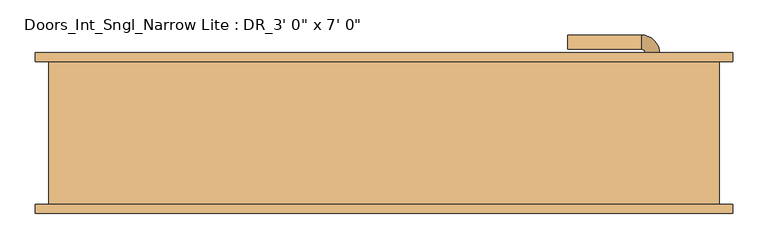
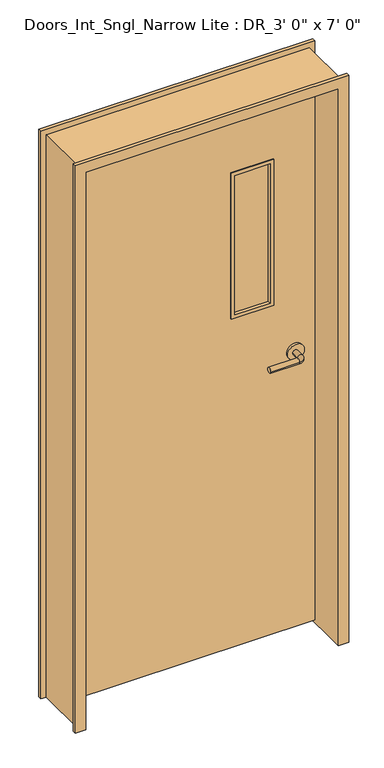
"""IFC4 building model written with IfcOpenShell, lengths in millimetres: door geometry."""

from ifc_helpers import new_model, si_unit, point, frame, frame_2d, origin, place, context, project, spatial, polyline, circle_curve, ellipse_curve, trimmed, segment, composite_curve, outline, extrude, faceted_brep, source, transform, mapped, element, save
from ifc_brep_helpers import plane_surface, cylinder_surface, revolved_surface, advanced_brep


def door_16a32bfa(model_context):
    return source(origin(), model_context, "Body", "SolidModel", [
        advanced_brep(
        [(391.0, 84.2, 1066.8), (371.0, 84.2, 1066.8), (371.0, 114.2, 1066.8), (391.0, 114.2, 1066.8), (366.0, 119.2, 1066.8), (366.0, 139.2, 1066.8), (261.0, 139.2, 1066.8), (261.0, 119.2, 1066.8)],
        [
            (0, 1, circle_curve(frame((381.0, 84.2, 1066.8), z_axis=(0.0, -1.0, 0.0), x_axis=(-0.9999999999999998, 0.0, 0.0)), 10.0)),
            (1, 0, circle_curve(frame((381.0, 84.2, 1066.8), z_axis=(0.0, -1.0, 0.0), x_axis=(-0.9999999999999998, 0.0, 0.0)), 10.0)),
            (1, 2),
            (2, 3, circle_curve(frame((381.0, 114.2, 1066.8), z_axis=(0.0, -1.0, 0.0), x_axis=(-0.9999999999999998, 0.0, 0.0)), 10.0)),
            (3, 0),
            (3, 2, circle_curve(frame((381.0, 114.2, 1066.8), z_axis=(0.0, -1.0, 0.0), x_axis=(-0.9999999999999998, 0.0, 0.0)), 10.0)),
            (4, 5, circle_curve(frame((366.0, 129.2, 1066.8), z_axis=(0.9999999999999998, 0.0, 0.0), x_axis=(0.0, -0.9999999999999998, 0.0)), 10.0)),
            (5, 3, circle_curve(frame((366.0, 114.2, 1066.8), z_axis=(0.0, 0.0, -1.0), x_axis=(0.9999999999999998, 0.0, 0.0)), 25.0)),
            (2, 4, circle_curve(frame((366.0, 114.2, 1066.8), z_axis=(0.0, 0.0, 1.0), x_axis=(0.9999999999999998, 0.0, 0.0)), 5.0)),
            (5, 4, circle_curve(frame((366.0, 129.2, 1066.8), z_axis=(0.9999999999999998, 0.0, 0.0), x_axis=(0.0, -0.9999999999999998, 0.0)), 10.0)),
            (6, 7, circle_curve(frame((261.0, 129.2, 1066.8), z_axis=(-1.0, 0.0, 0.0), x_axis=(0.0, -0.9999999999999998, 0.0)), 10.0)),
            (7, 6, circle_curve(frame((261.0, 129.2, 1066.8), z_axis=(-1.0, 0.0, 0.0), x_axis=(0.0, -0.9999999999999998, 0.0)), 10.0)),
            (4, 7),
            (6, 5),
        ],
        [
            plane_surface(frame((381.0, 84.2, 1066.8), z_axis=(0.0, -1.0, 0.0), x_axis=(0.0, 0.0, 1.0))),
            cylinder_surface(frame((381.0, 84.2, 1066.8), z_axis=(0.0, -0.9999999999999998, 0.0), x_axis=(-0.9999999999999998, 0.0, 0.0)), 10.0),
            revolved_surface(trimmed(ellipse_curve(frame((381.0, 114.2, 1066.8), z_axis=(0.0, 0.9999999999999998, 0.0), x_axis=(-0.9999999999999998, 0.0, 0.0)), 10.0, 10.0), [point((391.0, 114.2, 1066.8))], [point((371.0, 114.2, 1066.8))], True, "CARTESIAN"), (366.0, 114.2, 1066.8), (0.0, 0.0, -1.0)),
            revolved_surface(trimmed(ellipse_curve(frame((381.0, 114.2, 1066.8), z_axis=(0.0, 0.9999999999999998, 0.0), x_axis=(-0.9999999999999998, 0.0, 0.0)), 10.0, 10.0), [point((371.0, 114.2, 1066.8))], [point((391.0, 114.2, 1066.8))], True, "CARTESIAN"), (366.0, 114.2, 1066.8), (0.0, 0.0, -1.0)),
            plane_surface(frame((261.0, 129.2, 1066.8), z_axis=(-1.0, 0.0, 0.0), x_axis=(0.0, 0.0, 1.0))),
            cylinder_surface(frame((366.0, 129.2, 1066.8), z_axis=(0.9999999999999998, 0.0, 0.0), x_axis=(0.0, -0.9999999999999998, 0.0)), 10.0),
        ],
        [
            (0, [[1, 2]]),
            (1, [[3, 4, 5, -2]]),
            (1, [[-5, 6, -3, -1]]),
            (2, [[7, 8, -4, 9]]),
            (3, [[10, -9, -6, -8]]),
            (4, [[11, 12]]),
            (5, [[13, -11, 14, -7]]),
            (5, [[-14, -12, -13, -10]]),
        ],
    ),
        extrude(outline(composite_curve([segment(trimmed(circle_curve(frame_2d((1066.8, 383.5)), 30.0), [point((1066.8, 413.5))], [point((1066.8, 353.5))], False, "CARTESIAN"), True, "CONTINUOUS"), segment(trimmed(circle_curve(frame_2d((1066.8, 383.5)), 30.0), [point((1066.8, 353.5))], [point((1066.8, 413.5))], False, "CARTESIAN"), True, "CONTINUOUS")], self_intersect=False)), frame((0.0, 76.2, 0.0), z_axis=(0.0, 1.0, 0.0), x_axis=(0.0, 0.0, 1.0)), (0.0, 0.0, 1.0), 8.0),
        advanced_brep(
        [(391.0, 23.75, 1066.8), (371.0, 23.75, 1066.8), (391.0, -6.25, 1066.8), (371.0, -6.25, 1066.8), (366.0, -11.25, 1066.8), (366.0, -31.25, 1066.8), (261.0, -31.25, 1066.8), (261.0, -11.25, 1066.8)],
        [
            (0, 1, circle_curve(frame((381.0, 23.75, 1066.8), z_axis=(0.0, 1.0, 0.0), x_axis=(-0.9999999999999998, 0.0, 0.0)), 10.0)),
            (1, 0, circle_curve(frame((381.0, 23.75, 1066.8), z_axis=(0.0, 1.0, 0.0), x_axis=(-0.9999999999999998, 0.0, 0.0)), 10.0)),
            (0, 2),
            (2, 3, circle_curve(frame((381.0, -6.25, 1066.8), z_axis=(0.0, 1.0, 0.0), x_axis=(-0.9999999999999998, 0.0, 0.0)), 10.0)),
            (3, 1),
            (3, 2, circle_curve(frame((381.0, -6.25, 1066.8), z_axis=(0.0, 1.0, 0.0), x_axis=(-0.9999999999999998, 0.0, 0.0)), 10.0)),
            (4, 3, circle_curve(frame((366.0, -6.25, 1066.8), z_axis=(0.0, 0.0, 1.0), x_axis=(0.9999999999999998, 0.0, 0.0)), 5.0)),
            (2, 5, circle_curve(frame((366.0, -6.25, 1066.8), z_axis=(0.0, 0.0, -1.0), x_axis=(0.9999999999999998, 0.0, 0.0)), 25.0)),
            (5, 4, circle_curve(frame((366.0, -21.25, 1066.8), z_axis=(0.9999999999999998, 0.0, 0.0), x_axis=(0.0, 0.9999999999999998, 0.0)), 10.0)),
            (4, 5, circle_curve(frame((366.0, -21.25, 1066.8), z_axis=(0.9999999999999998, 0.0, 0.0), x_axis=(0.0, 0.9999999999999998, 0.0)), 10.0)),
            (6, 7, circle_curve(frame((261.0, -21.25, 1066.8), z_axis=(-1.0, 0.0, 0.0), x_axis=(0.0, 0.9999999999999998, 0.0)), 10.0)),
            (7, 6, circle_curve(frame((261.0, -21.25, 1066.8), z_axis=(-1.0, 0.0, 0.0), x_axis=(0.0, 0.9999999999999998, 0.0)), 10.0)),
            (5, 6),
            (7, 4),
        ],
        [
            plane_surface(frame((381.0, 23.75, 1066.8), z_axis=(0.0, 1.0, 0.0), x_axis=(0.0, 0.0, 1.0))),
            cylinder_surface(frame((381.0, 23.75, 1066.8), z_axis=(0.0, 0.9999999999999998, 0.0), x_axis=(-0.9999999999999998, 0.0, 0.0)), 10.0),
            revolved_surface(trimmed(ellipse_curve(frame((381.0, -6.25, 1066.8), z_axis=(0.0, 0.9999999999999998, 0.0), x_axis=(-0.9999999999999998, 0.0, 0.0)), 10.0, 10.0), [point((391.0, -6.25, 1066.8))], [point((371.0, -6.25, 1066.8))], True, "CARTESIAN"), (366.0, -6.25, 1066.8), (0.0, 0.0, -1.0)),
            revolved_surface(trimmed(ellipse_curve(frame((381.0, -6.25, 1066.8), z_axis=(0.0, 0.9999999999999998, 0.0), x_axis=(-0.9999999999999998, 0.0, 0.0)), 10.0, 10.0), [point((371.0, -6.25, 1066.8))], [point((391.0, -6.25, 1066.8))], True, "CARTESIAN"), (366.0, -6.25, 1066.8), (0.0, 0.0, -1.0)),
            plane_surface(frame((261.0, -21.25, 1066.8), z_axis=(-1.0, 0.0, 0.0), x_axis=(0.0, 0.0, 1.0))),
            cylinder_surface(frame((366.0, -21.25, 1066.8), z_axis=(0.9999999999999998, 0.0, 0.0), x_axis=(0.0, 0.9999999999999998, 0.0)), 10.0),
        ],
        [
            (0, [[1, 2]]),
            (1, [[-1, 3, 4, 5]]),
            (1, [[-2, -5, 6, -3]]),
            (2, [[7, -4, 8, 9]]),
            (3, [[-8, -6, -7, 10]]),
            (4, [[11, 12]]),
            (5, [[-9, 13, -12, 14]]),
            (5, [[-10, -14, -11, -13]]),
        ],
    ),
        extrude(outline(composite_curve([segment(trimmed(circle_curve(frame_2d((1066.8, 383.5)), 30.0), [point((1066.8, 413.5))], [point((1066.8, 353.5))], False, "CARTESIAN"), True, "CONTINUOUS"), segment(trimmed(circle_curve(frame_2d((1066.8, 383.5)), 30.0), [point((1066.8, 353.5))], [point((1066.8, 413.5))], False, "CARTESIAN"), True, "CONTINUOUS")], self_intersect=False)), frame((0.0, 23.75, 0.0), z_axis=(0.0, 1.0, 0.0), x_axis=(0.0, 0.0, 1.0)), (0.0, 0.0, 1.0), 8.0),
        extrude(outline(polyline([(292.1, 41.275), (165.1, 41.275), (165.1, 66.675), (292.1, 66.675), (292.1, 41.275)])), frame((0.0, 0.0, 1282.7), z_axis=(0.0, 0.0, 1.0), x_axis=(1.0, 0.0, 0.0)), (0.0, 0.0, 1.0), 533.4),
        extrude(outline(polyline([(1270.0, 152.4), (1270.0, 304.8), (1828.8, 304.8), (1828.8, 152.4), (1270.0, 152.4)]), holes=[polyline([(1282.7, 165.1), (1816.1, 165.1), (1816.1, 292.1), (1282.7, 292.1), (1282.7, 165.1)])]), frame((0.0, 28.575, 0.0), z_axis=(0.0, 1.0, 0.0), x_axis=(0.0, 0.0, 1.0)), (0.0, 0.0, 1.0), 50.8),
        extrude(outline(polyline([(2133.6, 457.2), (2133.6, -457.2), (12.7, -457.2), (12.7, 457.2), (2133.6, 457.2)]), holes=[polyline([(1270.0, 152.4), (1828.8, 152.4), (1828.8, 304.8), (1270.0, 304.8), (1270.0, 152.4)])]), frame((0.0, 31.75, 0.0), z_axis=(0.0, 1.0, 0.0), x_axis=(0.0, 0.0, 1.0)), (0.0, 0.0, 1.0), 44.45),
        faceted_brep([(-457.2, -114.3, 0.0), (-495.3, -114.3, 0.0), (-495.3, -101.6, 0.0), (-476.25, -101.6, 0.0), (-476.25, 101.6, 0.0), (-495.3, 101.6, 0.0), (-495.3, 114.3, 0.0), (-457.2, 114.3, 0.0), (-457.2, -114.3, 2133.6), (457.2, -114.3, 2133.6), (457.2, -114.3, 0.0), (495.3, -114.3, 0.0), (495.3, -114.3, 2171.7), (-495.3, -114.3, 2171.7), (-495.3, -101.6, 2171.7), (495.3, -101.6, 2171.7), (495.3, -101.6, 0.0), (476.25, -101.6, 0.0), (476.25, -101.6, 2152.65), (-476.25, -101.6, 2152.65), (-476.25, 101.6, 2152.65), (476.25, 101.6, 2152.65), (476.25, 101.6, 0.0), (495.3, 101.6, 0.0), (495.3, 101.6, 2171.7), (-495.3, 101.6, 2171.7), (-495.3, 114.3, 2171.7), (495.3, 114.3, 2171.7), (495.3, 114.3, 0.0), (457.2, 114.3, 0.0), (457.2, 114.3, 2133.6), (-457.2, 114.3, 2133.6)], [[[0, 1, 2, 3, 4, 5, 6, 7]], [[1, 0, 8, 9, 10, 11, 12, 13]], [[2, 1, 13, 14]], [[3, 2, 14, 15, 16, 17, 18, 19]], [[4, 3, 19, 20]], [[5, 4, 20, 21, 22, 23, 24, 25]], [[6, 5, 25, 26]], [[7, 6, 26, 27, 28, 29, 30, 31]], [[0, 7, 31, 8]], [[9, 30, 29, 10]], [[10, 29, 28, 23, 22, 17, 16, 11]], [[15, 12, 11, 16]], [[27, 24, 23, 28]], [[21, 18, 17, 22]], [[20, 19, 18, 21]], [[8, 31, 30, 9]], [[14, 13, 12, 15]], [[26, 25, 24, 27]]]),
    ])


if __name__ == "__main__":
    model = new_model("IFC4")
    model_context = context("Model", 3, world=origin())
    ifc_project = project(units=[si_unit("LENGTHUNIT", "METRE", prefix="MILLI")], contexts=[model_context])
    site = spatial("IfcSite", under=ifc_project)
    building = spatial("IfcBuilding", under=site)
    placement = place(None, origin())
    door_shape = door_16a32bfa(model_context)
    element("IfcDoor", 1, ObjectType="Doors_Int_Sngl_Narrow Lite : DR_3' 0\" x 7' 0\"", at=placement, inside=building, context=model_context, shape_type="MappedRepresentation", body=[
        mapped(door_shape, transform((0.0, 0.0, 0.0), x_axis=(1.0, 0.0, 0.0), y_axis=(0.0, 1.0, 0.0), z_axis=(0.0, 0.0, 1.0))),
    ])
    save(model, "model.ifc")
